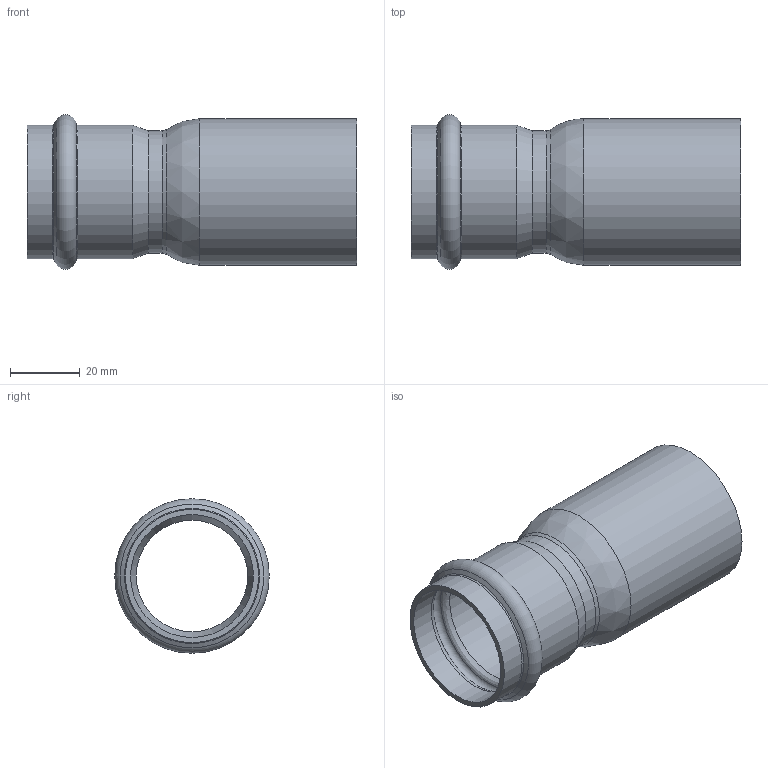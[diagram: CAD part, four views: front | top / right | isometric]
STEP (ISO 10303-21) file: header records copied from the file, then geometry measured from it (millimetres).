
FILE_DESCRIPTION((''),'2;1');
FILE_NAME('G:\Technics\CAD\Bauteile\042\692434235(1).stp','2008-03-04T14:19:51',('herberg'),(''),'Autodesk Inventor 2008','Autodesk Inventor 2008','');
FILE_SCHEMA(('AUTOMOTIVE_DESIGN { 1 0 10303 214 1 1 1 1 }'));
Length unit declared in the file: millimetre
Products named in the file (1): 692434235(1)
Bounding box: 94.5 x 44.3 x 44.3 mm (x, y, z)
Volume: 17955 mm3; surface area: 24302.7 mm2
Topology: 1 solids, 1 shells, 24 faces, 50 edges, 28 vertices
Faces by surface type: bspline 8, cylinder 8, cone 4, torus 2, plane 2
Full cylindrical faces by diameter (mm): 32 x1, 35 x1, 35.25 x2, 38.25 x2, 39 x1, 42 x1
Entity records: 798 total; most frequent: CARTESIAN_POINT 389, DIRECTION 82, ORIENTED_EDGE 48, EDGE_LOOP 48, AXIS2_PLACEMENT_3D 41, VERTEX_POINT 24, CIRCLE 24, EDGE_CURVE 24
